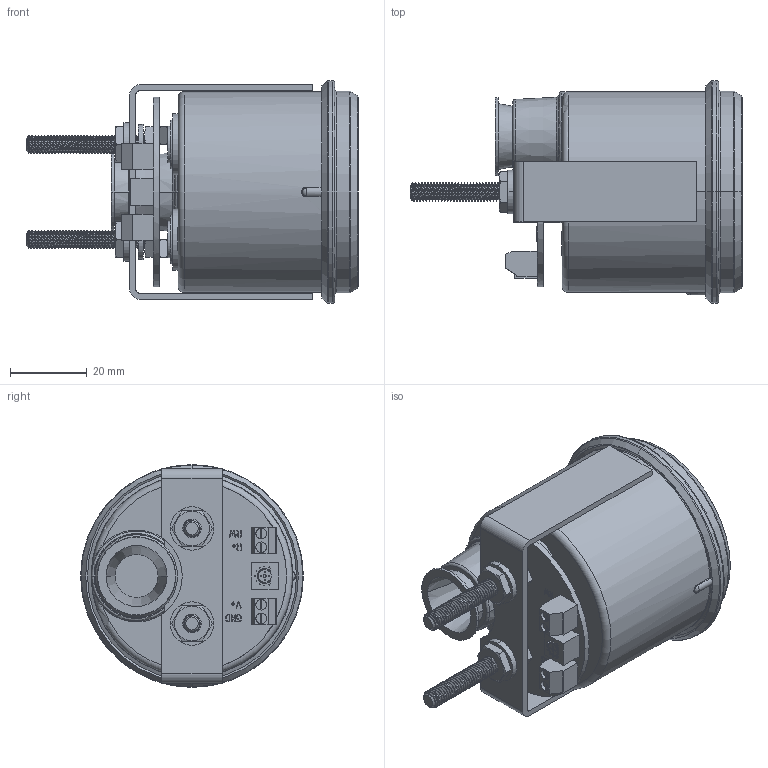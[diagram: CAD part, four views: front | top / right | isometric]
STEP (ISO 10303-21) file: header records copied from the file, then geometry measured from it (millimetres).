
FILE_DESCRIPTION (( 'STEP AP214' ), '1' );
FILE_NAME ('7180-M.STEP', '2019-02-28T00:10:59', ( '' ), ( '' ), 'SwSTEP 2.0', 'SolidWorks 2017', '' );
FILE_SCHEMA (( 'AUTOMOTIVE_DESIGN' ));
Length unit declared in the file: inch
Products named in the file (1): 7180-M
Bounding box: 86.49 x 58.04 x 58.04 mm (x, y, z)
Surface area: 25190.2 mm2 (no closed solid volume)
Topology: 0 solids, 14 shells, 464 faces, 1551 edges, 1091 vertices
Faces by surface type: cylinder 238, plane 155, torus 30, cone 26, bspline 13, sphere 2
Entity records: 37986 total; most frequent: CARTESIAN_POINT 19666, ORIENTED_EDGE 2662, DIRECTION 2290, EDGE_CURVE 1546, VERTEX_POINT 1090, AXIS2_PLACEMENT_3D 796, VECTOR 698, LINE 698
